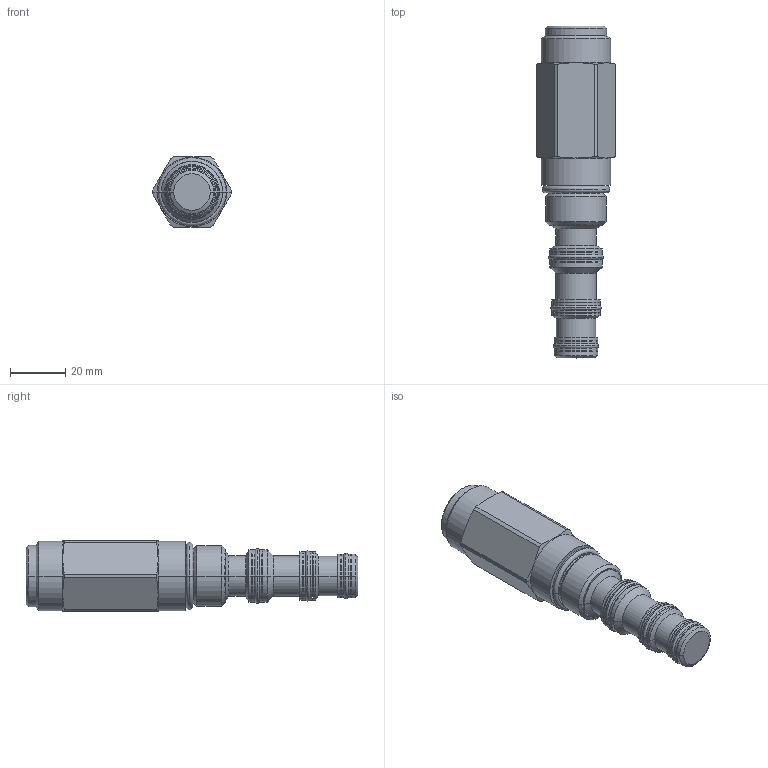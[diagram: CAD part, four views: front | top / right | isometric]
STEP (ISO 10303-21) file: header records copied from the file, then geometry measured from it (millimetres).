
FILE_DESCRIPTION((''),'2;1');
FILE_NAME('5424300_SW0006','2009-02-04T',('jcs'),(''),'PRO/ENGINEER BY PARAMETRIC TECHNOLOGY CORPORATION, 2008010','PRO/ENGINEER BY PARAMETRIC TECHNOLOGY CORPORATION, 2008010','');
FILE_SCHEMA(('CONFIG_CONTROL_DESIGN'));
Length unit declared in the file: inch
Products named in the file (1): 5424300_SW0006
Bounding box: 28.57 x 120.04 x 25.4 mm (x, y, z)
Volume: 44898.3 mm3; surface area: 12554.4 mm2
Topology: 5 solids, 5 shells, 214 faces, 446 edges, 258 vertices
Faces by surface type: cylinder 68, plane 44, torus 44, revolution 32, cone 26
Entity records: 6438 total; most frequent: CARTESIAN_POINT 1724, DIRECTION 1070, ORIENTED_EDGE 892, AXIS2_PLACEMENT_3D 460, EDGE_CURVE 446, CIRCLE 278, VERTEX_POINT 258, EDGE_LOOP 238
